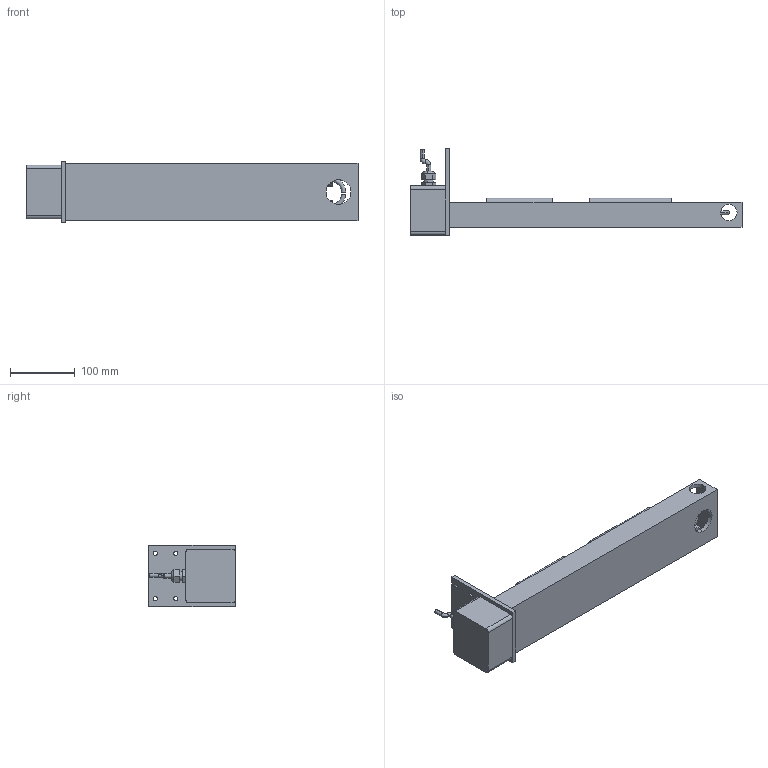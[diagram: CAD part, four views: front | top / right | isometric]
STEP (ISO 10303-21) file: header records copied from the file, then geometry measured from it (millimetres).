
FILE_DESCRIPTION (( 'STEP AP203' ), '1' );
FILE_NAME ('190787.STEP', '2019-12-23T20:18:12', ( '' ), ( '' ), 'SwSTEP 2.0', 'SolidWorks 2019', '' );
FILE_SCHEMA (( 'CONFIG_CONTROL_DESIGN' ));
Length unit declared in the file: inch
Products named in the file (7): SHELL-102467; 190787cable; SHELL-102451-02; SHELL-102516_5016K477; 190787box; SHELL-102773; 190787
Assembly tree (10 placements, depth 2):
  190787
    SHELL-102467
    190787cable
    SHELL-102451-02  x2
    SHELL-102516_5016K477  x2
    190787box
    SHELL-102773  x3
Bounding box: 511.18 x 133.35 x 95.25 mm (x, y, z)
Volume: 1052203.4 mm3; surface area: 287659.9 mm2
Topology: 14 solids, 14 shells, 495 faces, 1238 edges, 792 vertices
Faces by surface type: cylinder 176, plane 165, cone 88, torus 54, bspline 12
Entity records: 16353 total; most frequent: CARTESIAN_POINT 8754, DIRECTION 1425, ORIENTED_EDGE 1418, EDGE_CURVE 709, AXIS2_PLACEMENT_3D 555, VERTEX_POINT 453, EDGE_LOOP 322, VECTOR 315
